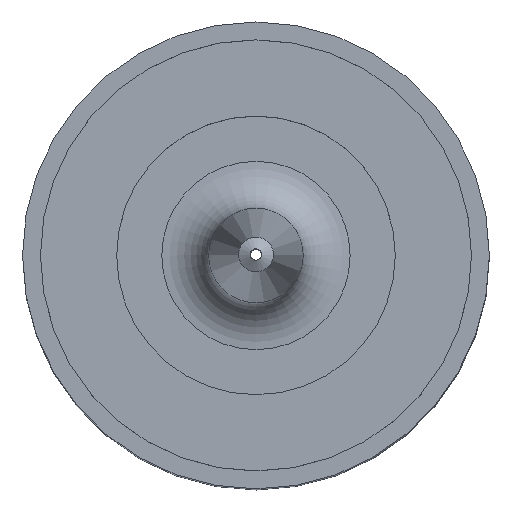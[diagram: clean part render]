
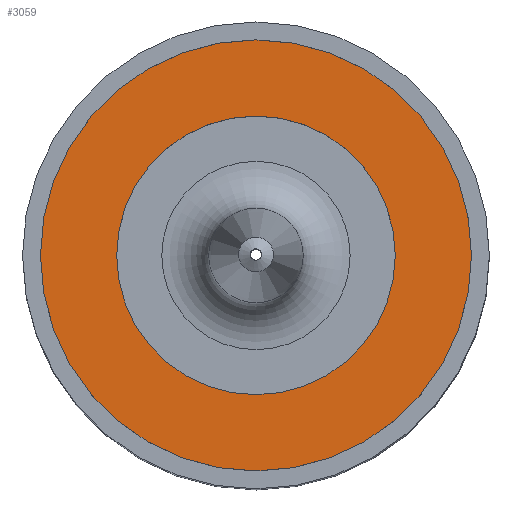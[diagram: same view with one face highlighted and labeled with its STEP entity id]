
A CAD part, top view. The second image highlights one B-rep face of the part: STEP entity #3059.
In plain terms, the highlighted planar face has unit normal (0, 0, 1) as drawn and (0, 0, -1) by its records, which use the part's own axes.
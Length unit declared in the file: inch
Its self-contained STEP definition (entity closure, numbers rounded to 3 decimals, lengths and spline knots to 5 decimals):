
#2993=CARTESIAN_POINT('',(0.5725,0.0,0.0));
#2994=VERTEX_POINT('',#2993);
#2995=CARTESIAN_POINT('',(0.0,0.0,0.0));
#2996=DIRECTION('',(0.0,0.0,1.0));
#2997=DIRECTION('',(1.0,0.0,0.0));
#2998=AXIS2_PLACEMENT_3D('',#2995,#2996,#2997);
#2999=CIRCLE('',#2998,0.5725);
#3000=EDGE_CURVE('',#2994,#2994,#2999,.T.);
#3036=CARTESIAN_POINT('',(0.37,0.0,0.0));
#3037=VERTEX_POINT('',#3036);
#3038=CARTESIAN_POINT('',(0.0,0.0,0.0));
#3039=DIRECTION('',(0.0,0.0,1.0));
#3040=DIRECTION('',(1.0,0.0,0.0));
#3041=AXIS2_PLACEMENT_3D('',#3038,#3039,#3040);
#3042=CIRCLE('',#3041,0.37);
#3043=EDGE_CURVE('',#3037,#3037,#3042,.T.);
#3048=CARTESIAN_POINT('',(0.,0.0,0.0));
#3049=DIRECTION('',(0.0,0.0,1.0));
#3050=DIRECTION('',(1.0,0.0,0.0));
#3051=AXIS2_PLACEMENT_3D('',#3048,#3049,#3050);
#3052=PLANE('',#3051);
#3053=ORIENTED_EDGE('',*,*,#3000,.F.);
#3054=EDGE_LOOP('',(#3053));
#3055=FACE_OUTER_BOUND('',#3054,.T.);
#3056=ORIENTED_EDGE('',*,*,#3043,.T.);
#3057=EDGE_LOOP('',(#3056));
#3058=FACE_BOUND('',#3057,.T.);
#3059=ADVANCED_FACE('',(#3055,#3058),#3052,.F.);
